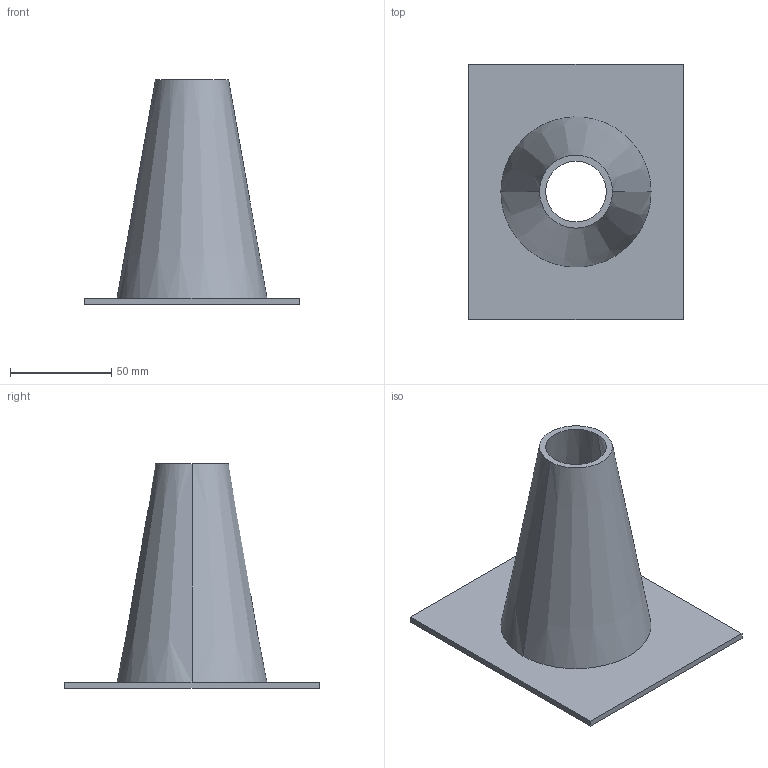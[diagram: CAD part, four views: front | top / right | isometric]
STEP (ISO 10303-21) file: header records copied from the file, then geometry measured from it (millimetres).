
FILE_DESCRIPTION(('CATIA V5 STEP Exchange'),'2;1');
FILE_NAME('C:\_Andres\UNIVERSIDAD\IQS\ASIGNATURAS\DAO\EXF\EXF-15161c\1original\Molins_Gutiérrez_Ej08-ensambla_v16.stp','2016-03-04T21:37:17+00:00',('none'),('none'),'CATIA Version 5 Release 20 SP 1 (IN-10)','CATIA V5 STEP AP203','none');
FILE_SCHEMA(('CONFIG_CONTROL_DESIGN'));
Length unit declared in the file: millimetre
Products named in the file (1): Molins_Gutiérrez_Ej08-ensambla_v16
Bounding box: 106 x 126 x 111 mm (x, y, z)
Volume: 82813 mm3; surface area: 56892.7 mm2
Topology: 1 solids, 1 shells, 11 faces, 24 edges, 16 vertices
Faces by surface type: plane 7, cone 4
Entity records: 414 total; most frequent: CARTESIAN_POINT 127, ORIENTED_EDGE 48, DIRECTION 44, EDGE_CURVE 24, AXIS2_PLACEMENT_3D 17, VECTOR 16, LINE 16, VERTEX_POINT 16
